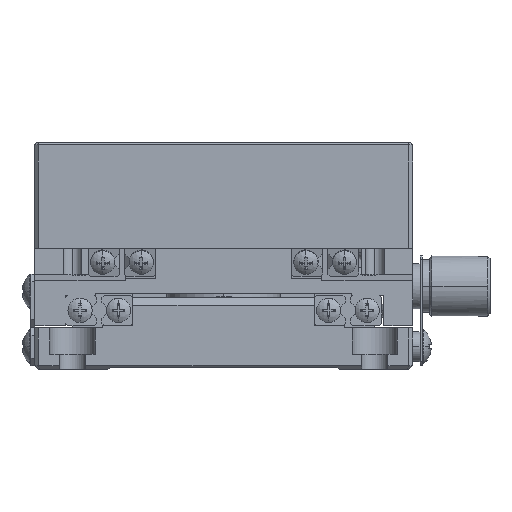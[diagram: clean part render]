
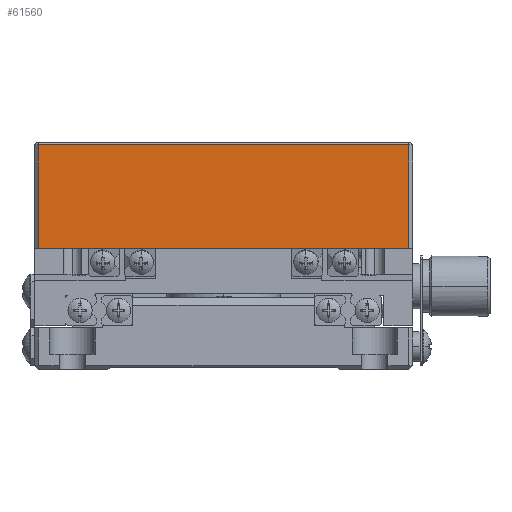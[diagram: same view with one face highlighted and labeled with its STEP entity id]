
A CAD part, left-side view. The second image highlights one B-rep face of the part: STEP entity #61560.
In plain terms, the highlighted planar face has unit normal (-1, 0, 0).
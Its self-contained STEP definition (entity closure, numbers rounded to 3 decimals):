
#3757 = ORIENTED_EDGE ( 'NONE', *, *, #53312, .F. ) ;
#3763 = ORIENTED_EDGE ( 'NONE', *, *, #53313, .T. ) ;
#3764 = ORIENTED_EDGE ( 'NONE', *, *, #53314, .T. ) ;
#3767 = ORIENTED_EDGE ( 'NONE', *, *, #53315, .T. ) ;
#24069 = AXIS2_PLACEMENT_3D ( 'NONE', #25171, #25177, #25178 ) ;
#25169 = PLANE ( 'NONE',  #24069 ) ;
#25171 = CARTESIAN_POINT ( 'NONE',  ( -25., -50., -1.508 ) ) ;
#25175 = FACE_OUTER_BOUND ( 'NONE', #38410, .T. ) ;
#25177 = DIRECTION ( 'NONE',  ( -1., 0., 0. ) ) ;
#25178 = DIRECTION ( 'NONE',  ( 0., -1., 0. ) ) ;
#30516 = LINE ( 'NONE', #30567, #58468 ) ;
#30547 = LINE ( 'NONE', #30552, #58475 ) ;
#30552 = CARTESIAN_POINT ( 'NONE',  ( -25., -25., -0.742 ) ) ;
#30554 = DIRECTION ( 'NONE',  ( 0., 1., 0. ) ) ;
#30557 = LINE ( 'NONE', #30562, #58476 ) ;
#30562 = CARTESIAN_POINT ( 'NONE',  ( -25., -0.5, -1.508 ) ) ;
#30565 = DIRECTION ( 'NONE',  ( 0., 0., -1. ) ) ;
#30567 = CARTESIAN_POINT ( 'NONE',  ( -25., -50., 12.958 ) ) ;
#30573 = DIRECTION ( 'NONE',  ( 0., 1., 0. ) ) ;
#30575 = LINE ( 'NONE', #30580, #58478 ) ;
#30580 = CARTESIAN_POINT ( 'NONE',  ( -25., -49.5, 13.258 ) ) ;
#30582 = DIRECTION ( 'NONE',  ( 0., 0., 1. ) ) ;
#38410 = EDGE_LOOP ( 'NONE', ( #3767, #3764, #3763, #3757 ) ) ;
#46877 = CARTESIAN_POINT ( 'NONE',  ( -25., -0.5, -0.742 ) ) ;
#46878 = CARTESIAN_POINT ( 'NONE',  ( -25., -0.5, 12.958 ) ) ;
#46880 = CARTESIAN_POINT ( 'NONE',  ( -25., -49.5, 12.958 ) ) ;
#46883 = CARTESIAN_POINT ( 'NONE',  ( -25., -49.5, -0.742 ) ) ;
#53312 = EDGE_CURVE ( 'NONE', #72106, #72100, #30547, .T. ) ;
#53313 = EDGE_CURVE ( 'NONE', #72101, #72100, #30557, .T. ) ;
#53314 = EDGE_CURVE ( 'NONE', #72103, #72101, #30516, .T. ) ;
#53315 = EDGE_CURVE ( 'NONE', #72106, #72103, #30575, .T. ) ;
#58468 = VECTOR ( 'NONE', #30573, 1000. ) ;
#58475 = VECTOR ( 'NONE', #30554, 1000. ) ;
#58476 = VECTOR ( 'NONE', #30565, 1000. ) ;
#58478 = VECTOR ( 'NONE', #30582, 1000. ) ;
#61560 = ADVANCED_FACE ( 'NONE', ( #25175 ), #25169, .T. ) ;
#72100 = VERTEX_POINT ( 'NONE', #46877 ) ;
#72101 = VERTEX_POINT ( 'NONE', #46878 ) ;
#72103 = VERTEX_POINT ( 'NONE', #46880 ) ;
#72106 = VERTEX_POINT ( 'NONE', #46883 ) ;
